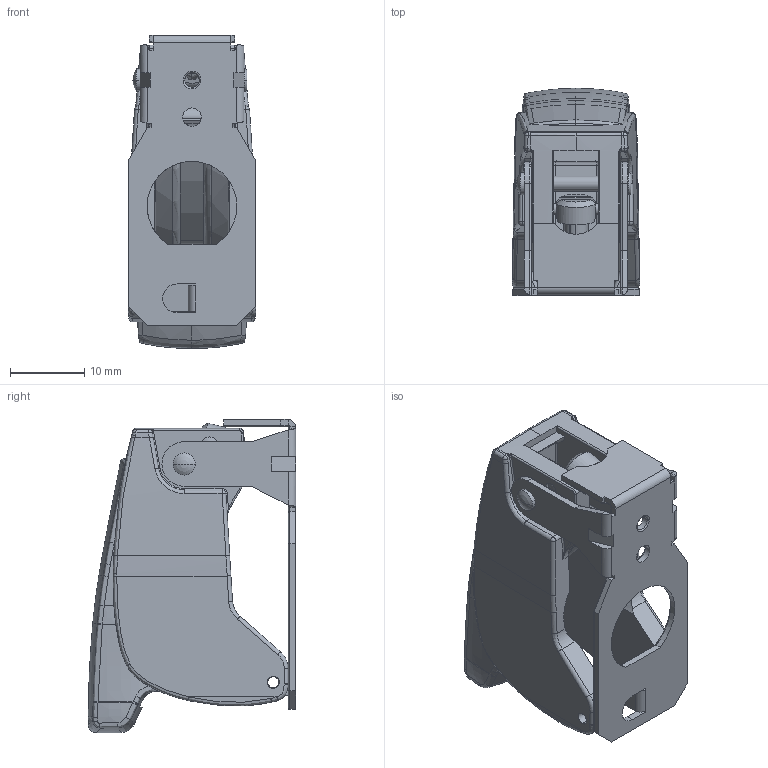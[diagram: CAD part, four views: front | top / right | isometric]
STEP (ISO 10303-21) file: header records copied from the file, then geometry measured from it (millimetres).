
FILE_DESCRIPTION((''),'2;1');
FILE_NAME('MSG22FS__SW0001','2014-12-23T',('brevel'),(''),'PRO/ENGINEER BY PARAMETRIC TECHNOLOGY CORPORATION, 2013410','PRO/ENGINEER BY PARAMETRIC TECHNOLOGY CORPORATION, 2013410','');
FILE_SCHEMA(('CONFIG_CONTROL_DESIGN'));
Length unit declared in the file: millimetre
Products named in the file (1): MSG22FS__SW0001
Bounding box: 17.16 x 27.9 x 42.15 mm (x, y, z)
Volume: 7559.6 mm3; surface area: 6356.6 mm2
Topology: 3 solids, 3 shells, 667 faces, 1750 edges, 1097 vertices
Faces by surface type: plane 266, cylinder 203, bspline 100, torus 56, cone 23, sphere 10, extrusion 9
Entity records: 25009 total; most frequent: CARTESIAN_POINT 9597, ORIENTED_EDGE 3470, DIRECTION 2800, EDGE_CURVE 1735, VERTEX_POINT 1097, AXIS2_PLACEMENT_3D 948, VECTOR 904, LINE 895
